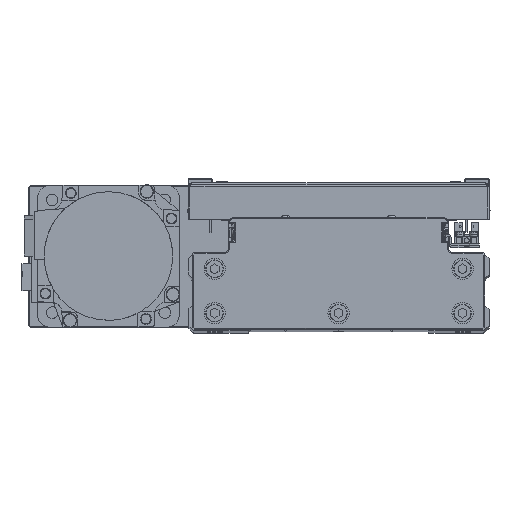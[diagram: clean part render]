
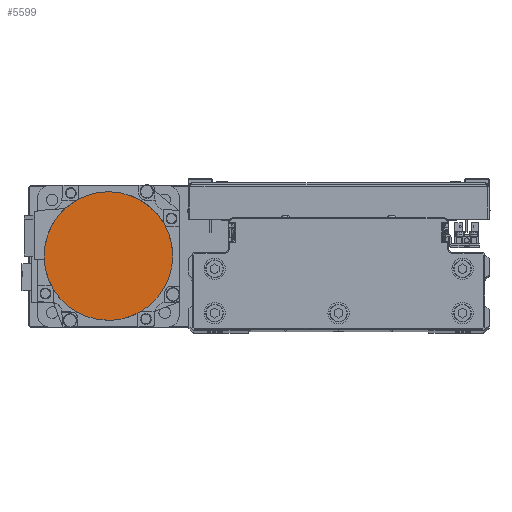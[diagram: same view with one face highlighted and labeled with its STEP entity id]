
A CAD part, top view. The second image highlights one B-rep face of the part: STEP entity #5599.
In plain terms, the highlighted planar face has unit normal (0, 0, 1) as drawn and (0, 0, -1) by its records, which use the part's own axes.
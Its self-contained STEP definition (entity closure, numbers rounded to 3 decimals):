
#453 = CARTESIAN_POINT ( 'NONE',  ( -31.502, 18.192, -122.2 ) ) ;
#1650 = CARTESIAN_POINT ( 'NONE',  ( -36.066, -4.752, -122.2 ) ) ;
#1870 = CARTESIAN_POINT ( 'NONE',  ( -4.752, -36.066, -122.2 ) ) ;
#1892 = VERTEX_POINT ( 'NONE', #27231 ) ;
#1947 = CARTESIAN_POINT ( 'NONE',  ( 0., 0., -122.2 ) ) ;
#3816 = CARTESIAN_POINT ( 'NONE',  ( -23.988, 27.348, -122.2 ) ) ;
#5019 = EDGE_CURVE ( 'NONE', #13450, #22449, #42808, .T. ) ;
#5236 = CARTESIAN_POINT ( 'NONE',  ( -16.086, -32.628, -122.2 ) ) ;
#5599 = ADVANCED_FACE ( 'NONE', ( #24908 ), #38651, .F. ) ;
#6349 = ORIENTED_EDGE ( 'NONE', *, *, #15067, .F. ) ;
#6523 = DIRECTION ( 'NONE',  ( -1., 0., 0. ) ) ;
#7204 = CARTESIAN_POINT ( 'NONE',  ( -16.086, 32.628, -122.2 ) ) ;
#7735 = CIRCLE ( 'NONE', #32913, 36.3 ) ;
#7815 = CARTESIAN_POINT ( 'NONE',  ( 0., 0., -122.2 ) ) ;
#8023 = ORIENTED_EDGE ( 'NONE', *, *, #5019, .F. ) ;
#8597 = CARTESIAN_POINT ( 'NONE',  ( -23.988, -27.348, -122.2 ) ) ;
#10580 = CARTESIAN_POINT ( 'NONE',  ( -4.752, 36.066, -122.2 ) ) ;
#10791 = CARTESIAN_POINT ( 'NONE',  ( -36.066, 4.752, -122.2 ) ) ;
#11982 = CARTESIAN_POINT ( 'NONE',  ( -31.502, -18.192, -122.2 ) ) ;
#13450 = VERTEX_POINT ( 'NONE', #25837 ) ;
#13940 = CIRCLE ( 'NONE', #39116, 36.3 ) ;
#14179 = CARTESIAN_POINT ( 'NONE',  ( -32.628, 16.086, -122.2 ) ) ;
#15067 = EDGE_CURVE ( 'NONE', #1892, #33116, #7735, .T. ) ;
#15340 = CARTESIAN_POINT ( 'NONE',  ( -35.139, -9.412, -122.2 ) ) ;
#15581 = CARTESIAN_POINT ( 'NONE',  ( -2.376, -36.3, -122.2 ) ) ;
#15655 = DIRECTION ( 'NONE',  ( 0., 0., 1. ) ) ;
#17363 = EDGE_LOOP ( 'NONE', ( #6349, #43092, #8023, #21131 ) ) ;
#17529 = CARTESIAN_POINT ( 'NONE',  ( -27.348, 23.988, -122.2 ) ) ;
#18726 = CARTESIAN_POINT ( 'NONE',  ( -36.3, 0., -122.2 ) ) ;
#18941 = CARTESIAN_POINT ( 'NONE',  ( -11.696, -34.446, -122.2 ) ) ;
#20908 = CARTESIAN_POINT ( 'NONE',  ( -18.192, 31.502, -122.2 ) ) ;
#21131 = ORIENTED_EDGE ( 'NONE', *, *, #25186, .F. ) ;
#21516 = DIRECTION ( 'NONE',  ( 0., 0., 1. ) ) ;
#22319 = CARTESIAN_POINT ( 'NONE',  ( -22.143, -28.862, -122.2 ) ) ;
#22449 = VERTEX_POINT ( 'NONE', #40435 ) ;
#23622 = CARTESIAN_POINT ( 'NONE',  ( 0., 0., -122.2 ) ) ;
#24304 = CARTESIAN_POINT ( 'NONE',  ( -9.412, 35.139, -122.2 ) ) ;
#24516 = CARTESIAN_POINT ( 'NONE',  ( -36.3, 2.376, -122.2 ) ) ;
#24908 = FACE_OUTER_BOUND ( 'NONE', #17363, .T. ) ;
#25186 = EDGE_CURVE ( 'NONE', #33116, #13450, #13940, .T. ) ;
#25721 = CARTESIAN_POINT ( 'NONE',  ( -28.862, -22.143, -122.2 ) ) ;
#25837 = CARTESIAN_POINT ( 'NONE',  ( 0., 36.3, -122.2 ) ) ;
#27231 = CARTESIAN_POINT ( 'NONE',  ( 0., -36.3, -122.2 ) ) ;
#27657 = CARTESIAN_POINT ( 'NONE',  ( 0., 36.3, -122.2 ) ) ;
#27893 = CARTESIAN_POINT ( 'NONE',  ( -34.446, 11.696, -122.2 ) ) ;
#27899 = EDGE_CURVE ( 'NONE', #22449, #1892, #28902, .T. ) ;
#28902 = B_SPLINE_CURVE_WITH_KNOTS ( 'NONE', 3,
 ( #18726, #32467, #1650, #15340, #29069, #42834, #11982, #25721, #39453, #8597, #22319, #36065, #5236, #18941, #32681, #1870, #15581, #29311 ),
 .UNSPECIFIED., .F., .F.,
 ( 4, 2, 2, 2, 2, 2, 2, 2, 4 ),
 ( 0., 0.125, 0.25, 0.375, 0.5, 0.625, 0.75, 0.875, 1. ),
 .UNSPECIFIED. ) ;
#29069 = CARTESIAN_POINT ( 'NONE',  ( -34.446, -11.696, -122.2 ) ) ;
#29311 = CARTESIAN_POINT ( 'NONE',  ( 0., -36.3, -122.2 ) ) ;
#29380 = DIRECTION ( 'NONE',  ( -1., 0., 0. ) ) ;
#31268 = CARTESIAN_POINT ( 'NONE',  ( -28.862, 22.143, -122.2 ) ) ;
#32467 = CARTESIAN_POINT ( 'NONE',  ( -36.3, -2.376, -122.2 ) ) ;
#32681 = CARTESIAN_POINT ( 'NONE',  ( -9.412, -35.139, -122.2 ) ) ;
#32913 = AXIS2_PLACEMENT_3D ( 'NONE', #1947, #15655, #29380 ) ;
#33116 = VERTEX_POINT ( 'NONE', #41080 ) ;
#34664 = CARTESIAN_POINT ( 'NONE',  ( -22.143, 28.862, -122.2 ) ) ;
#35277 = DIRECTION ( 'NONE',  ( 1., 0., 0. ) ) ;
#36065 = CARTESIAN_POINT ( 'NONE',  ( -18.192, -31.502, -122.2 ) ) ;
#37360 = DIRECTION ( 'NONE',  ( 0., 0., 1. ) ) ;
#38043 = CARTESIAN_POINT ( 'NONE',  ( -11.696, 34.446, -122.2 ) ) ;
#38251 = CARTESIAN_POINT ( 'NONE',  ( -36.3, 0., -122.2 ) ) ;
#38651 = PLANE ( 'NONE',  #40811 ) ;
#39116 = AXIS2_PLACEMENT_3D ( 'NONE', #23622, #37360, #6523 ) ;
#39453 = CARTESIAN_POINT ( 'NONE',  ( -27.348, -23.988, -122.2 ) ) ;
#40435 = CARTESIAN_POINT ( 'NONE',  ( -36.3, 0., -122.2 ) ) ;
#40811 = AXIS2_PLACEMENT_3D ( 'NONE', #7815, #21516, #35277 ) ;
#41080 = CARTESIAN_POINT ( 'NONE',  ( 36.3, 0., -122.2 ) ) ;
#41425 = CARTESIAN_POINT ( 'NONE',  ( -2.376, 36.3, -122.2 ) ) ;
#41648 = CARTESIAN_POINT ( 'NONE',  ( -35.139, 9.412, -122.2 ) ) ;
#42808 = B_SPLINE_CURVE_WITH_KNOTS ( 'NONE', 3,
 ( #27657, #41425, #10580, #24304, #38043, #7204, #20908, #34664, #3816, #17529, #31268, #453, #14179, #27893, #41648, #10791, #24516, #38251 ),
 .UNSPECIFIED., .F., .F.,
 ( 4, 2, 2, 2, 2, 2, 2, 2, 4 ),
 ( 0., 0.125, 0.25, 0.375, 0.5, 0.625, 0.75, 0.875, 1. ),
 .UNSPECIFIED. ) ;
#42834 = CARTESIAN_POINT ( 'NONE',  ( -32.628, -16.086, -122.2 ) ) ;
#43092 = ORIENTED_EDGE ( 'NONE', *, *, #27899, .F. ) ;
